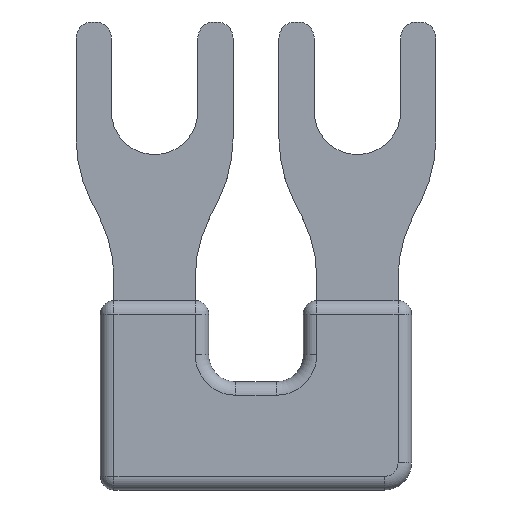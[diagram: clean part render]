
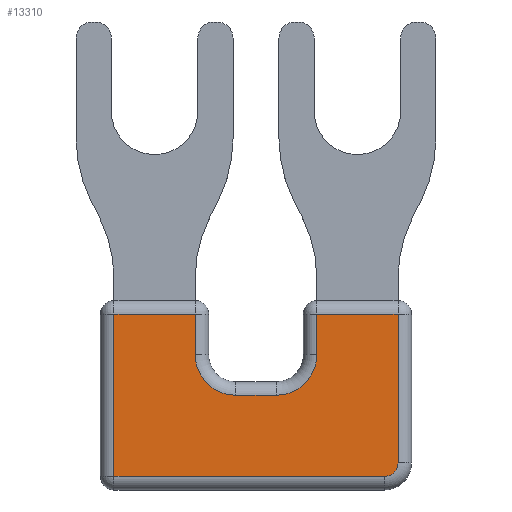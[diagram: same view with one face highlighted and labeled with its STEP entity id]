
A CAD part, top view. The second image highlights one B-rep face of the part: STEP entity #13310.
In plain terms, the highlighted planar face has unit normal (0, 0, 1).
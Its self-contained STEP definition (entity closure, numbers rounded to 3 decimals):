
#11540=CARTESIAN_POINT('',(-371.588,-760.384,1.5));
#11550=VERTEX_POINT('',#11540);
#11740=CARTESIAN_POINT('',(-372.088,-760.884,1.5));
#11750=VERTEX_POINT('',#11740);
#11780=CARTESIAN_POINT('',(-372.088,-760.384,1.5));
#11790=DIRECTION('',(0.,0.,1.));
#11800=DIRECTION('',(1.,0.,0.));
#11810=AXIS2_PLACEMENT_3D('',#11780,#11790,#11800);
#11820=CIRCLE('',#11810,0.5);
#11830=EDGE_CURVE('',#11750,#11550,#11820,.T.);
#12070=CARTESIAN_POINT('',(-382.088,-760.884,1.5));
#12080=VERTEX_POINT('',#12070);
#12110=CARTESIAN_POINT('',(0.,-760.884,1.5));
#12120=DIRECTION('',(-1.,0.,0.));
#12130=VECTOR('',#12120,1.);
#12140=LINE('',#12110,#12130);
#12150=EDGE_CURVE('',#11750,#12080,#12140,.T.);
#12500=CARTESIAN_POINT('',(0.,0.,1.5));
#12510=DIRECTION('',(0.,0.,1.));
#12520=DIRECTION('',(1.,0.,0.));
#12530=AXIS2_PLACEMENT_3D('',#12500,#12510,#12520);
#12540=PLANE('',#12530);
#12550=CARTESIAN_POINT('',(-379.088,0.,1.5));
#12560=DIRECTION('',(0.,-1.,0.));
#12570=VECTOR('',#12560,1.);
#12580=LINE('',#12550,#12570);
#12590=CARTESIAN_POINT('',(-379.088,-754.884,1.5));
#12600=VERTEX_POINT('',#12590);
#12610=CARTESIAN_POINT('',(-379.088,-756.384,1.5));
#12620=VERTEX_POINT('',#12610);
#12630=EDGE_CURVE('',#12600,#12620,#12580,.T.);
#12640=ORIENTED_EDGE('',*,*,#12630,.F.);
#12650=CARTESIAN_POINT('',(-377.588,-756.384,1.5));
#12660=DIRECTION('',(0.,0.,1.));
#12670=DIRECTION('',(1.,0.,0.));
#12680=AXIS2_PLACEMENT_3D('',#12650,#12660,#12670);
#12690=CIRCLE('',#12680,1.5);
#12700=CARTESIAN_POINT('',(-377.588,-757.884,1.5));
#12710=VERTEX_POINT('',#12700);
#12720=EDGE_CURVE('',#12620,#12710,#12690,.T.);
#12730=ORIENTED_EDGE('',*,*,#12720,.F.);
#12740=CARTESIAN_POINT('',(0.,-757.884,1.5));
#12750=DIRECTION('',(1.,0.,0.));
#12760=VECTOR('',#12750,1.);
#12770=LINE('',#12740,#12760);
#12780=CARTESIAN_POINT('',(-376.088,-757.884,1.5));
#12790=VERTEX_POINT('',#12780);
#12800=EDGE_CURVE('',#12710,#12790,#12770,.T.);
#12810=ORIENTED_EDGE('',*,*,#12800,.F.);
#12820=CARTESIAN_POINT('',(-376.088,-756.384,1.5));
#12830=DIRECTION('',(0.,0.,1.));
#12840=DIRECTION('',(1.,0.,0.));
#12850=AXIS2_PLACEMENT_3D('',#12820,#12830,#12840);
#12860=CIRCLE('',#12850,1.5);
#12870=CARTESIAN_POINT('',(-374.588,-756.384,1.5));
#12880=VERTEX_POINT('',#12870);
#12890=EDGE_CURVE('',#12790,#12880,#12860,.T.);
#12900=ORIENTED_EDGE('',*,*,#12890,.F.);
#12910=CARTESIAN_POINT('',(-374.588,0.,1.5));
#12920=DIRECTION('',(0.,1.,0.));
#12930=VECTOR('',#12920,1.);
#12940=LINE('',#12910,#12930);
#12950=CARTESIAN_POINT('',(-374.588,-754.884,1.5));
#12960=VERTEX_POINT('',#12950);
#12970=EDGE_CURVE('',#12880,#12960,#12940,.T.);
#12980=ORIENTED_EDGE('',*,*,#12970,.F.);
#12990=CARTESIAN_POINT('',(0.,-754.884,1.5));
#13000=DIRECTION('',(-1.,0.,0.));
#13010=VECTOR('',#13000,1.);
#13020=LINE('',#12990,#13010);
#13030=CARTESIAN_POINT('',(-371.588,-754.884,1.5));
#13040=VERTEX_POINT('',#13030);
#13050=EDGE_CURVE('',#13040,#12960,#13020,.T.);
#13060=ORIENTED_EDGE('',*,*,#13050,.T.);
#13070=CARTESIAN_POINT('',(-371.588,0.,1.5));
#13080=DIRECTION('',(0.,1.,0.));
#13090=VECTOR('',#13080,1.);
#13100=LINE('',#13070,#13090);
#13110=EDGE_CURVE('',#11550,#13040,#13100,.T.);
#13120=ORIENTED_EDGE('',*,*,#13110,.T.);
#13130=ORIENTED_EDGE('',*,*,#11830,.T.);
#13140=ORIENTED_EDGE('',*,*,#12150,.F.);
#13150=CARTESIAN_POINT('',(-382.088,0.,1.5));
#13160=DIRECTION('',(0.,-1.,0.));
#13170=VECTOR('',#13160,1.);
#13180=LINE('',#13150,#13170);
#13190=CARTESIAN_POINT('',(-382.088,-754.884,1.5));
#13200=VERTEX_POINT('',#13190);
#13210=EDGE_CURVE('',#13200,#12080,#13180,.T.);
#13220=ORIENTED_EDGE('',*,*,#13210,.T.);
#13230=CARTESIAN_POINT('',(0.,-754.884,1.5));
#13240=DIRECTION('',(-1.,0.,0.));
#13250=VECTOR('',#13240,1.);
#13260=LINE('',#13230,#13250);
#13270=EDGE_CURVE('',#12600,#13200,#13260,.T.);
#13280=ORIENTED_EDGE('',*,*,#13270,.T.);
#13290=EDGE_LOOP('',(#13280,#13220,#13140,#13130,#13120,#13060,#12980,
#12900,#12810,#12730,#12640));
#13300=FACE_OUTER_BOUND('',#13290,.T.);
#13310=ADVANCED_FACE('',(#13300),#12540,.T.);
